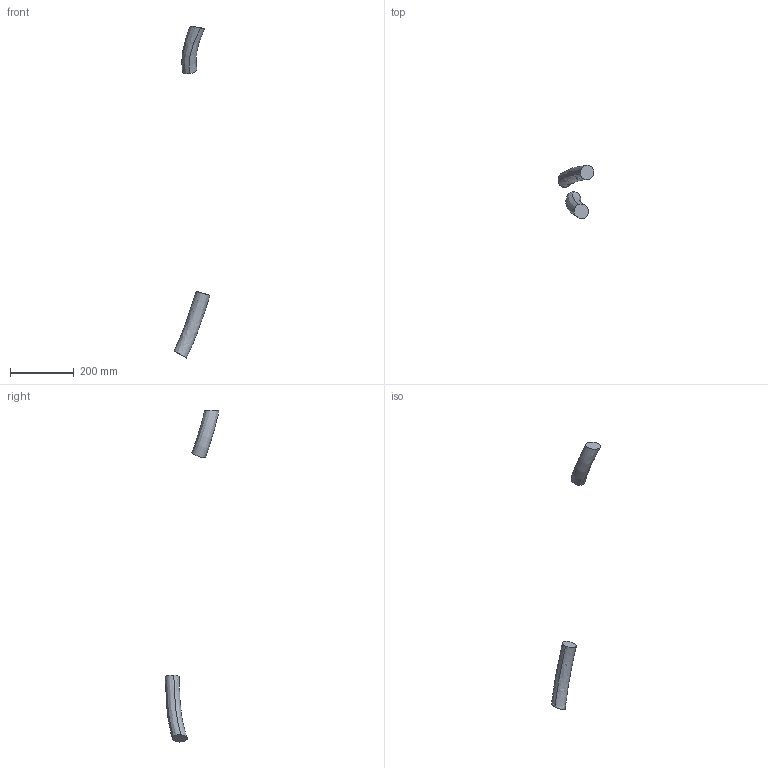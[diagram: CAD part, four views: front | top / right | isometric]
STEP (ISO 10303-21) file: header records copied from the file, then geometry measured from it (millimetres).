
FILE_DESCRIPTION (( 'STEP AP214' ), '1' );
FILE_NAME ('IRB6720-LID_215kg-250_OC_00_LINK02m_CABLE.step', '2026-05-26T07:18:14', ( '' ), ( '' ), 'SwSTEP 2.0', 'SolidWorks 2024', '' );
FILE_SCHEMA (( 'AUTOMOTIVE_DESIGN' ));
Length unit declared in the file: millimetre
Products named in the file (1): IRB6720-LID_215kg-250_OC_00_LINK02m_CABLE
Bounding box: 112.62 x 168.84 x 1042.16 mm (x, y, z)
Volume: 563876.3 mm3; surface area: 56623.3 mm2
Topology: 2 solids, 2 shells, 8 faces, 12 edges, 8 vertices
Faces by surface type: bspline 4, plane 4
Entity records: 1535 total; most frequent: CARTESIAN_POINT 1384, ORIENTED_EDGE 24, DIRECTION 18, EDGE_CURVE 12, AXIS2_PLACEMENT_3D 9, VERTEX_POINT 8, FACE_OUTER_BOUND 8, EDGE_LOOP 8
